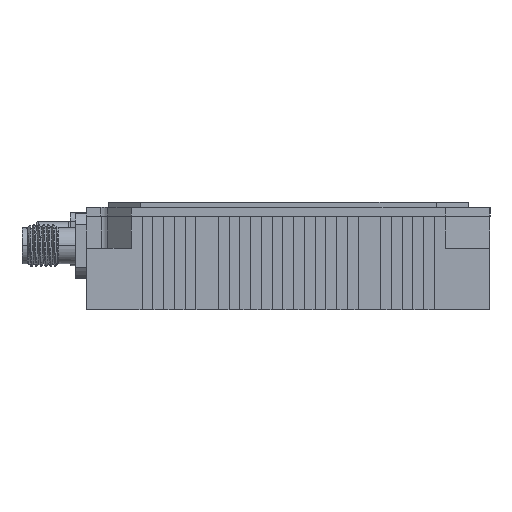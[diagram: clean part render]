
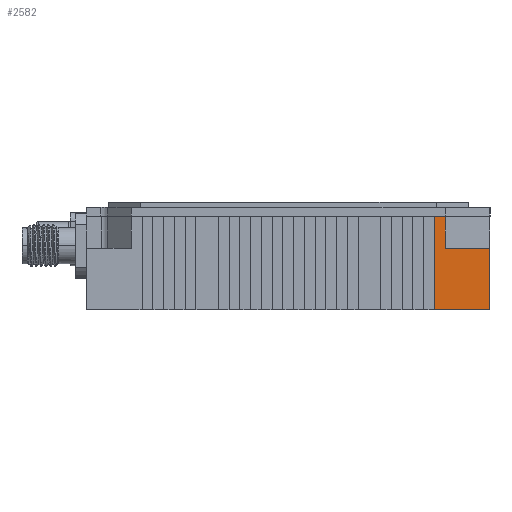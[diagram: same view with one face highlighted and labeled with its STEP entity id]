
A CAD part, front view. The second image highlights one B-rep face of the part: STEP entity #2582.
In plain terms, the highlighted planar face has unit normal (0, -1, 0).
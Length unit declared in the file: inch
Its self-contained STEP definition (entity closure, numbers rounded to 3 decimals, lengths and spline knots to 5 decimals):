
#438 = DIRECTION ( 'NONE',  ( 1., 0., 0. ) ) ;
#653 = CARTESIAN_POINT ( 'NONE',  ( 0.91, -0.98, 0.355 ) ) ;
#2582 = ADVANCED_FACE ( 'NONE', ( #45790 ), #58621, .F. ) ;
#2711 = DIRECTION ( 'NONE',  ( 0., 0., 1. ) ) ;
#3314 = AXIS2_PLACEMENT_3D ( 'NONE', #3317, #25883, #2711 ) ;
#3317 = CARTESIAN_POINT ( 'NONE',  ( -1.17, -0.98, 0.47 ) ) ;
#5949 = LINE ( 'NONE', #19961, #34076 ) ;
#6021 = VERTEX_POINT ( 'NONE', #653 ) ;
#8314 = LINE ( 'NONE', #55085, #37633 ) ;
#10070 = ORIENTED_EDGE ( 'NONE', *, *, #41933, .T. ) ;
#13192 = DIRECTION ( 'NONE',  ( 0., 0., 1. ) ) ;
#13537 = VERTEX_POINT ( 'NONE', #40790 ) ;
#14050 = ORIENTED_EDGE ( 'NONE', *, *, #56550, .F. ) ;
#15414 = DIRECTION ( 'NONE',  ( 1., 0., 0. ) ) ;
#15878 = ORIENTED_EDGE ( 'NONE', *, *, #32051, .F. ) ;
#16271 = ORIENTED_EDGE ( 'NONE', *, *, #40928, .T. ) ;
#16724 = CARTESIAN_POINT ( 'NONE',  ( 1.17, -0.98, 0.47 ) ) ;
#18018 = VECTOR ( 'NONE', #38826, 39.37008 ) ;
#19482 = CARTESIAN_POINT ( 'NONE',  ( 1.17, -0.98, 0.355 ) ) ;
#19961 = CARTESIAN_POINT ( 'NONE',  ( 0.91, -0.98, 0.355 ) ) ;
#21820 = EDGE_LOOP ( 'NONE', ( #40134, #15878, #10070, #42671, #14050, #16271 ) ) ;
#23172 = VECTOR ( 'NONE', #45813, 39.37008 ) ;
#25068 = VECTOR ( 'NONE', #53766, 39.37008 ) ;
#25883 = DIRECTION ( 'NONE',  ( 0., 1., 0. ) ) ;
#27827 = VERTEX_POINT ( 'NONE', #43485 ) ;
#30003 = EDGE_CURVE ( 'NONE', #36157, #27827, #58639, .T. ) ;
#30009 = VERTEX_POINT ( 'NONE', #57439 ) ;
#32051 = EDGE_CURVE ( 'NONE', #13537, #30009, #38831, .T. ) ;
#33622 = EDGE_CURVE ( 'NONE', #30009, #37502, #42310, .T. ) ;
#34076 = VECTOR ( 'NONE', #15414, 39.37008 ) ;
#36157 = VERTEX_POINT ( 'NONE', #19482 ) ;
#37502 = VERTEX_POINT ( 'NONE', #39492 ) ;
#37633 = VECTOR ( 'NONE', #13192, 39.37008 ) ;
#38826 = DIRECTION ( 'NONE',  ( 0., 0., -1. ) ) ;
#38831 = LINE ( 'NONE', #48276, #25068 ) ;
#39492 = CARTESIAN_POINT ( 'NONE',  ( 0.91, -0.98, 0.54 ) ) ;
#40134 = ORIENTED_EDGE ( 'NONE', *, *, #33622, .F. ) ;
#40790 = CARTESIAN_POINT ( 'NONE',  ( 0.848, -0.98, 0. ) ) ;
#40928 = EDGE_CURVE ( 'NONE', #6021, #37502, #8314, .T. ) ;
#41933 = EDGE_CURVE ( 'NONE', #13537, #27827, #59558, .T. ) ;
#42310 = LINE ( 'NONE', #46012, #57889 ) ;
#42671 = ORIENTED_EDGE ( 'NONE', *, *, #30003, .F. ) ;
#43485 = CARTESIAN_POINT ( 'NONE',  ( 1.17, -0.98, 0. ) ) ;
#45209 = CARTESIAN_POINT ( 'NONE',  ( -1.17, -0.98, 0. ) ) ;
#45790 = FACE_OUTER_BOUND ( 'NONE', #21820, .T. ) ;
#45813 = DIRECTION ( 'NONE',  ( 1., 0., 0. ) ) ;
#46012 = CARTESIAN_POINT ( 'NONE',  ( -0.91, -0.98, 0.54 ) ) ;
#48276 = CARTESIAN_POINT ( 'NONE',  ( 0.848, -0.98, -0.06778 ) ) ;
#53766 = DIRECTION ( 'NONE',  ( 0., 0., 1. ) ) ;
#55085 = CARTESIAN_POINT ( 'NONE',  ( 0.91, -0.98, 0.355 ) ) ;
#56550 = EDGE_CURVE ( 'NONE', #6021, #36157, #5949, .T. ) ;
#57439 = CARTESIAN_POINT ( 'NONE',  ( 0.848, -0.98, 0.54 ) ) ;
#57889 = VECTOR ( 'NONE', #438, 39.37008 ) ;
#58621 = PLANE ( 'NONE',  #3314 ) ;
#58639 = LINE ( 'NONE', #16724, #18018 ) ;
#59558 = LINE ( 'NONE', #45209, #23172 ) ;
